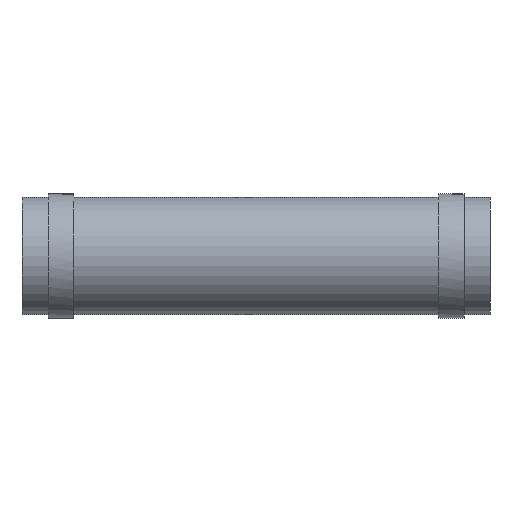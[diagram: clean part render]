
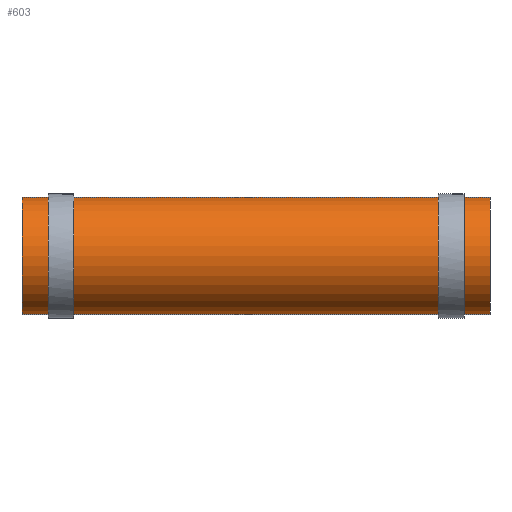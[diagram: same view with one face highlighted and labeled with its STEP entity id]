
A CAD part, front view. The second image highlights one B-rep face of the part: STEP entity #603.
In plain terms, the highlighted cylindrical face has radius 14.287 mm (diameter 28.575 mm), a partial arc.
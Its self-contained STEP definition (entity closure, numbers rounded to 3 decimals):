
#42 = CIRCLE ( 'NONE', #354, 14.288 ) ;
#55 = CIRCLE ( 'NONE', #349, 14.288 ) ;
#72 = LINE ( 'NONE', #1268, #75 ) ;
#75 = VECTOR ( 'NONE', #1269, 1000. ) ;
#161 = FACE_OUTER_BOUND ( 'NONE', #480, .T. ) ;
#168 = CYLINDRICAL_SURFACE ( 'NONE', #267, 14.288 ) ;
#267 = AXIS2_PLACEMENT_3D ( 'NONE', #1181, #1179, #1177 ) ;
#349 = AXIS2_PLACEMENT_3D ( 'NONE', #1228, #1229, #1230 ) ;
#354 = AXIS2_PLACEMENT_3D ( 'NONE', #1622, #1623, #1624 ) ;
#360 = EDGE_CURVE ( 'NONE', #820, #819, #42, .T. ) ;
#372 = EDGE_CURVE ( 'NONE', #817, #814, #55, .T. ) ;
#389 = EDGE_CURVE ( 'NONE', #817, #820, #72, .T. ) ;
#391 = EDGE_CURVE ( 'NONE', #814, #819, #618, .T. ) ;
#480 = EDGE_LOOP ( 'NONE', ( #1423, #1424, #1425, #1426 ) ) ;
#522 = CARTESIAN_POINT ( 'NONE',  ( 57.15, 0., -14.288 ) ) ;
#525 = CARTESIAN_POINT ( 'NONE',  ( -57.15, 0., -14.288 ) ) ;
#526 = CARTESIAN_POINT ( 'NONE',  ( -57.15, 0., 14.288 ) ) ;
#603 = ADVANCED_FACE ( 'NONE', ( #161 ), #168, .T. ) ;
#618 = LINE ( 'NONE', #1263, #619 ) ;
#619 = VECTOR ( 'NONE', #1273, 1000. ) ;
#814 = VERTEX_POINT ( 'NONE', #522 ) ;
#817 = VERTEX_POINT ( 'NONE', #1063 ) ;
#819 = VERTEX_POINT ( 'NONE', #525 ) ;
#820 = VERTEX_POINT ( 'NONE', #526 ) ;
#1063 = CARTESIAN_POINT ( 'NONE',  ( 57.15, 0., 14.288 ) ) ;
#1177 = DIRECTION ( 'NONE',  ( 0., 0., 1. ) ) ;
#1179 = DIRECTION ( 'NONE',  ( -1., 0., 0. ) ) ;
#1181 = CARTESIAN_POINT ( 'NONE',  ( 57.15, 0., 0. ) ) ;
#1228 = CARTESIAN_POINT ( 'NONE',  ( 57.15, 0., 0. ) ) ;
#1229 = DIRECTION ( 'NONE',  ( 1., 0., 0. ) ) ;
#1230 = DIRECTION ( 'NONE',  ( 0., 0., -1. ) ) ;
#1263 = CARTESIAN_POINT ( 'NONE',  ( 57.15, 0., -14.288 ) ) ;
#1268 = CARTESIAN_POINT ( 'NONE',  ( 57.15, 0., 14.288 ) ) ;
#1269 = DIRECTION ( 'NONE',  ( -1., 0., 0. ) ) ;
#1273 = DIRECTION ( 'NONE',  ( -1., 0., 0. ) ) ;
#1423 = ORIENTED_EDGE ( 'NONE', *, *, #391, .F. ) ;
#1424 = ORIENTED_EDGE ( 'NONE', *, *, #372, .F. ) ;
#1425 = ORIENTED_EDGE ( 'NONE', *, *, #389, .T. ) ;
#1426 = ORIENTED_EDGE ( 'NONE', *, *, #360, .T. ) ;
#1622 = CARTESIAN_POINT ( 'NONE',  ( -57.15, 0., 0. ) ) ;
#1623 = DIRECTION ( 'NONE',  ( 1., 0., 0. ) ) ;
#1624 = DIRECTION ( 'NONE',  ( 0., 0., -1. ) ) ;
